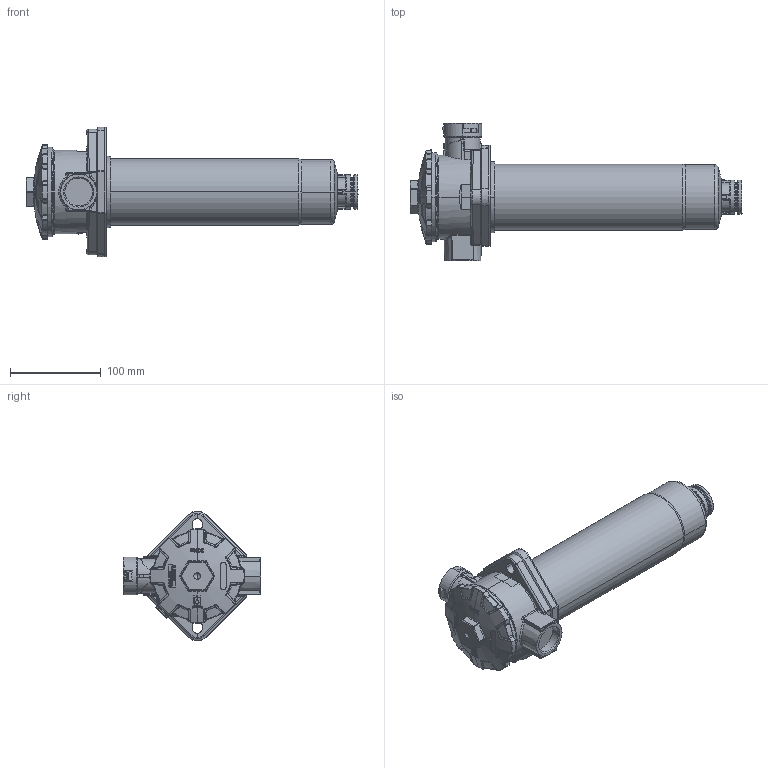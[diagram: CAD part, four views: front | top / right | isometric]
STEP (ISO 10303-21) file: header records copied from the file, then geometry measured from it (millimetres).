
FILE_DESCRIPTION((''),'2;1');
FILE_NAME('13313300_317433','2024-09-02T13:41:53',('a.heinl'),(''),'CREO PARAMETRIC BY PTC INC, 2023254','CREO PARAMETRIC BY PTC INC, 2023254','');
FILE_SCHEMA(('AUTOMOTIVE_DESIGN { 1 0 10303 214 1 1 1 1 }'));
Length unit declared in the file: millimetre
Products named in the file (1): 13313300_317433
Bounding box: 364.95 x 151.5 x 142.55 mm (x, y, z)
Volume: 1701268.3 mm3; surface area: 134890 mm2
Topology: 1 solids, 3 shells, 1411 faces, 3598 edges, 2190 vertices
Faces by surface type: plane 510, bspline 349, cylinder 252, torus 111, cone 103, sphere 55, extrusion 31
Entity records: 71290 total; most frequent: CARTESIAN_POINT 29230, ORIENTED_EDGE 7120, DIRECTION 5829, PRESENTATION_STYLE_ASSIGNMENT 3561, STYLED_ITEM 3561, CURVE_STYLE 3560, EDGE_CURVE 3560, AXIS2_PLACEMENT_3D 2364
